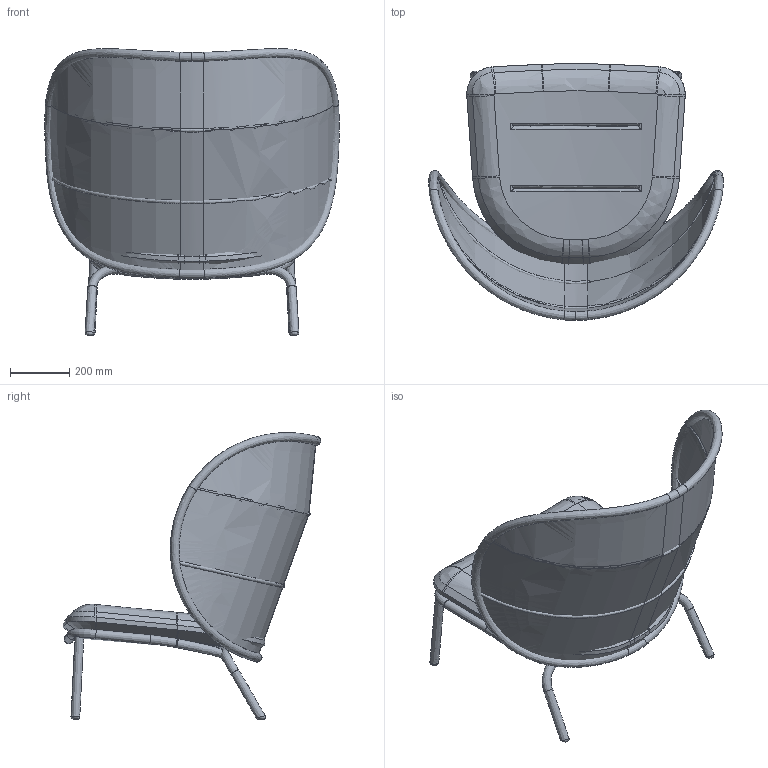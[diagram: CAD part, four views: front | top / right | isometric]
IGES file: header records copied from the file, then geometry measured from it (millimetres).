
Global section: file name: VincentSheppard_Kodo_Cocoon; native system: unknown; preprocessor: unknown; author: unknown; organization: unknown; date: 20190924.084504; units: millimetre
Bounding box: 993.02 x 868.07 x 967.4 mm (x, y, z)
Volume: 42731861 mm3; surface area: 3562614.8 mm2
Topology: 9 solids, 9 shells, 198 faces, 936 edges, 752 vertices
Faces by surface type: bspline 192, revolution 6
